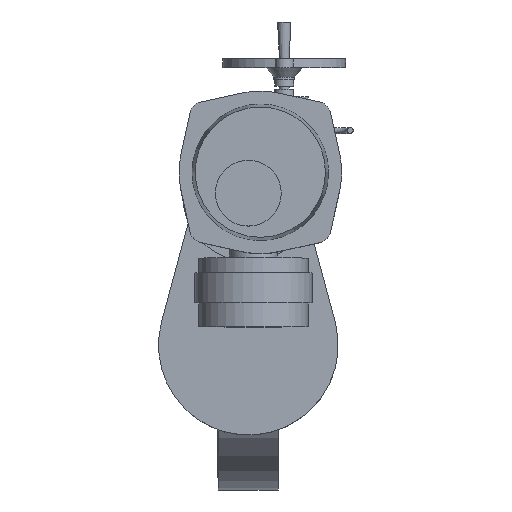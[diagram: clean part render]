
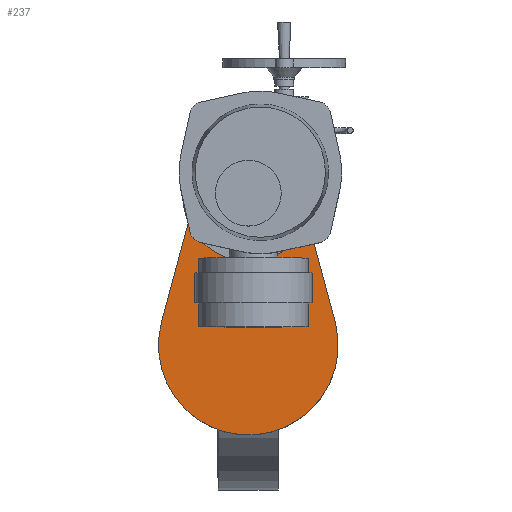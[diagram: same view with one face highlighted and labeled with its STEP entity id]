
A CAD part, top view. The second image highlights one B-rep face of the part: STEP entity #237.
In plain terms, the highlighted planar face has unit normal (0, 0, 1).
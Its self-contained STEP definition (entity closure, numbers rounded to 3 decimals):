
#237=ADVANCED_FACE('',(#8279),#8281,.F.);
#8279=FACE_BOUND('',#8280,.T.);
#8280=EDGE_LOOP('',(#14650,#14651,#14652,#14653,#14654));
#8281=PLANE('',#8282);
#8282=AXIS2_PLACEMENT_3D('',#8283,#8284,#8285);
#8283=CARTESIAN_POINT('',(20.,288.,481.));
#8284=DIRECTION('',(0.,0.,-1.));
#8285=DIRECTION('',(0.,1.,0.));
#14650=ORIENTED_EDGE('',*,*,#19472,.T.);
#14651=ORIENTED_EDGE('',*,*,#19473,.T.);
#14652=ORIENTED_EDGE('',*,*,#19474,.F.);
#14653=ORIENTED_EDGE('',*,*,#19446,.F.);
#14654=ORIENTED_EDGE('',*,*,#19475,.F.);
#19446=EDGE_CURVE('',#21894,#21895,#21896,.T.);
#19472=EDGE_CURVE('',#21943,#21944,#21945,.F.);
#19473=EDGE_CURVE('',#21944,#21946,#21947,.F.);
#19474=EDGE_CURVE('',#21895,#21946,#21948,.T.);
#19475=EDGE_CURVE('',#21943,#21894,#21949,.T.);
#21894=VERTEX_POINT('',#26045);
#21895=VERTEX_POINT('',#26046);
#21896=CIRCLE('',#26047,150.);
#21943=VERTEX_POINT('',#26170);
#21944=VERTEX_POINT('',#26171);
#21945=CIRCLE('',#26172,85.);
#21946=VERTEX_POINT('',#26176);
#21947=CIRCLE('',#26177,85.);
#21948=LINE('',#26181,#26182);
#21949=LINE('',#26184,#26185);
#26045=CARTESIAN_POINT('',(144.841,39.,481.));
#26046=CARTESIAN_POINT('',(-144.841,39.,481.));
#26047=AXIS2_PLACEMENT_3D('',#26048,#26049,#26050);
#26048=CARTESIAN_POINT('',(0.,0.,481.));
#26049=DIRECTION('',(0.,0.,-1.));
#26050=DIRECTION('',(0.966,0.26,0.));
#26170=CARTESIAN_POINT('',(82.077,272.1,481.));
#26171=CARTESIAN_POINT('',(0.,165.,481.));
#26172=AXIS2_PLACEMENT_3D('',#26173,#26174,#26175);
#26173=CARTESIAN_POINT('',(0.,250.,481.));
#26174=DIRECTION('',(0.,0.,1.));
#26175=DIRECTION('',(0.,-1.,0.));
#26176=CARTESIAN_POINT('',(-82.077,272.1,481.));
#26177=AXIS2_PLACEMENT_3D('',#26178,#26179,#26180);
#26178=CARTESIAN_POINT('',(0.,250.,481.));
#26179=DIRECTION('',(0.,0.,1.));
#26180=DIRECTION('',(-0.966,0.26,0.));
#26181=CARTESIAN_POINT('',(-144.841,39.,481.));
#26182=VECTOR('',#26183,1.);
#26183=DIRECTION('',(0.26,0.966,0.));
#26184=CARTESIAN_POINT('',(82.077,272.1,481.));
#26185=VECTOR('',#26186,1.);
#26186=DIRECTION('',(0.26,-0.966,0.));
